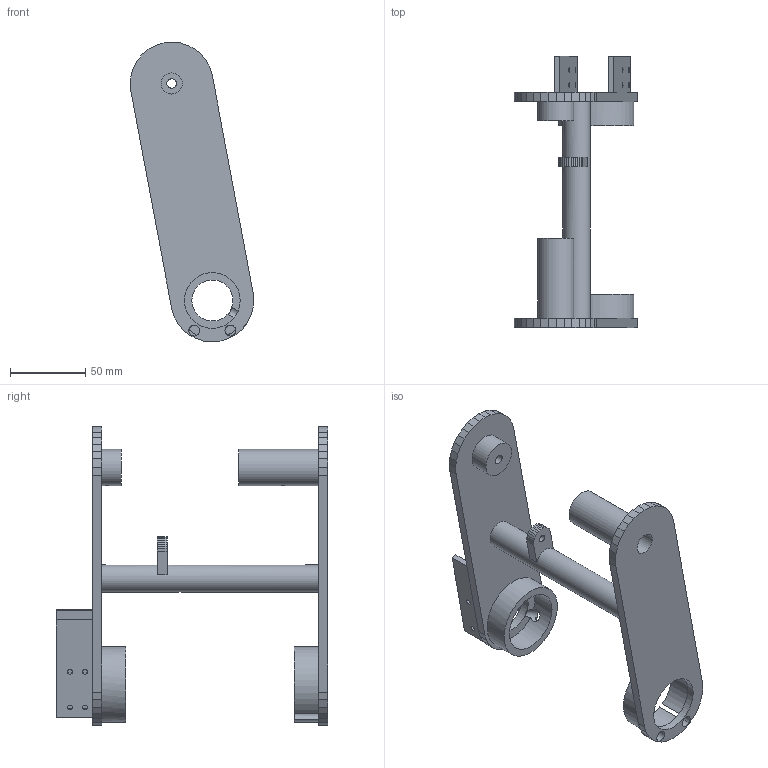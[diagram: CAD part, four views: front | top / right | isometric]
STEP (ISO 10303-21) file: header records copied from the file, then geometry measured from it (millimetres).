
FILE_DESCRIPTION(('Open CASCADE Model'),'2;1');
FILE_NAME('Open CASCADE Shape Model','2026-10-15T19:33:11',('Author'),( 'Open CASCADE'),'Open CASCADE STEP processor 7.9','Open CASCADE 7.9' ,'Unknown');
FILE_SCHEMA(('AUTOMOTIVE_DESIGN { 1 0 10303 214 1 1 1 1 }'));
Length unit declared in the file: millimetre
Products named in the file (1): Open CASCADE STEP translator 7.9 3
Bounding box: 82 x 180 x 199.04 mm (x, y, z)
Volume: 191196.9 mm3; surface area: 82933.7 mm2
Topology: 1 solids, 2 shells, 147 faces, 408 edges, 272 vertices
Faces by surface type: plane 116, cylinder 31
Full cylindrical faces by diameter (mm): 3 x3, 3.3 x8, 4.9 x1, 6.3 x1, 7.2 x2, 8 x1, 11 x2, 14 x2, 18 x1, 24 x2, 27.2 x1, 37 x1, 40 x1, 50 x1
Entity records: 11658 total; most frequent: CARTESIAN_POINT 3568, DIRECTION 1454, LINE 1002, VECTOR 1002, ORIENTED_EDGE 816, PCURVE 816, DEFINITIONAL_REPRESENTATION 816, EDGE_CURVE 408
